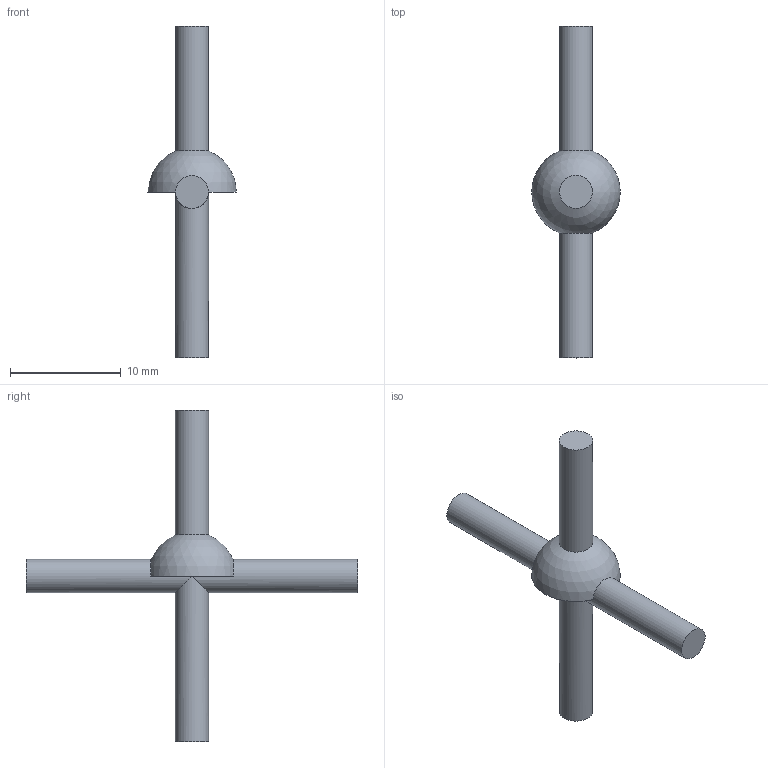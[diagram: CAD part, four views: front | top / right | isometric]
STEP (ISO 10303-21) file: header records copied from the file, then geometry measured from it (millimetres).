
FILE_DESCRIPTION(('Open CASCADE Model'),'2;1');
FILE_NAME('Open CASCADE Shape Model','2026-10-25T05:18:01',('Author'),( 'Open CASCADE'),'Open CASCADE STEP processor 7.9','Open CASCADE 7.9' ,'Unknown');
FILE_SCHEMA(('AUTOMOTIVE_DESIGN { 1 0 10303 214 1 1 1 1 }'));
Length unit declared in the file: millimetre
Products named in the file (1): Open CASCADE STEP translator 7.9 31
Bounding box: 8 x 30 x 30 mm (x, y, z)
Volume: 494.6 mm3; surface area: 618.6 mm2
Topology: 1 solids, 1 shells, 11 faces, 23 edges, 14 vertices
Faces by surface type: plane 6, cylinder 4, sphere 1
Full cylindrical faces by diameter (mm): 3 x4
Entity records: 697 total; most frequent: CARTESIAN_POINT 199, DIRECTION 100, ORIENTED_EDGE 46, PCURVE 46, DEFINITIONAL_REPRESENTATION 46, LINE 39, VECTOR 39, AXIS2_PLACEMENT_3D 27
